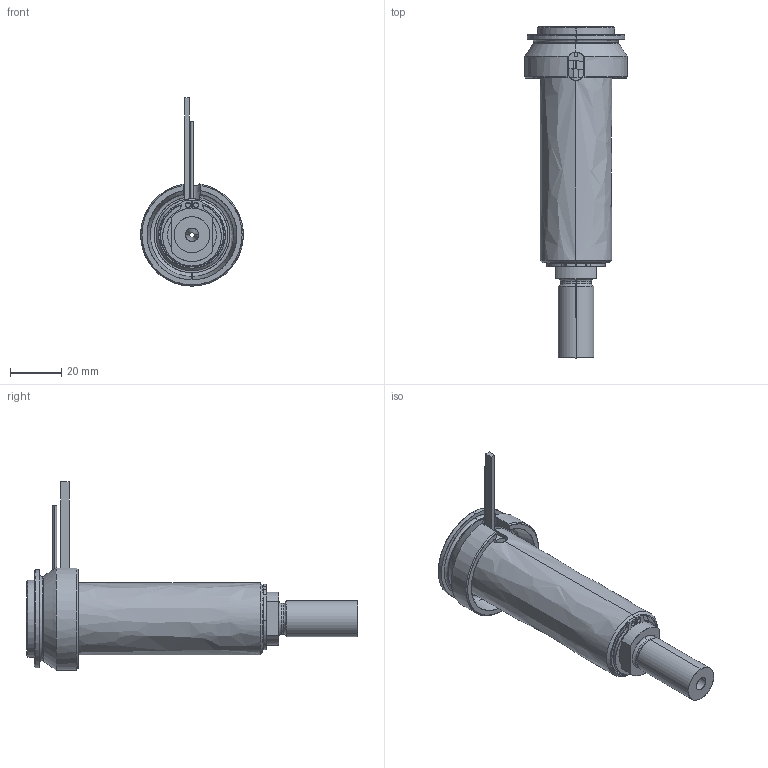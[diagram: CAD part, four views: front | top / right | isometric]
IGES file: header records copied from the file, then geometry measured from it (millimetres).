
Start section: SolidWorks IGES file using analytic representation for surfaces
Global section: file name: C:\Documents and Settings\ws-20\Desktop\TEMPORANEA\UGBE4002-M-A-P-3 [Ød-2.0 P-25 ØC-10].IGS; native system: SolidWorks 2012; preprocessor: SolidWorks 2012; author: ws-20; date: 120306.140631; units: millimetre
Bounding box: 40 x 129.25 x 73.3 mm (x, y, z)
Surface area: 33826.6 mm2 (no closed solid volume)
Topology: 0 solids, 0 shells, 104 faces, 1743 edges, 1743 vertices
Faces by surface type: revolution 60, bspline 44
